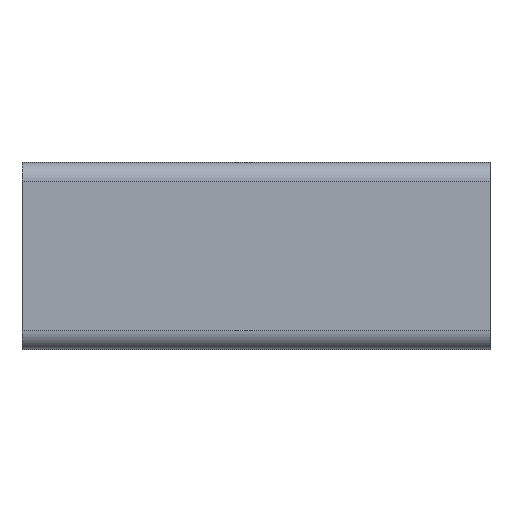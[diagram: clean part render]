
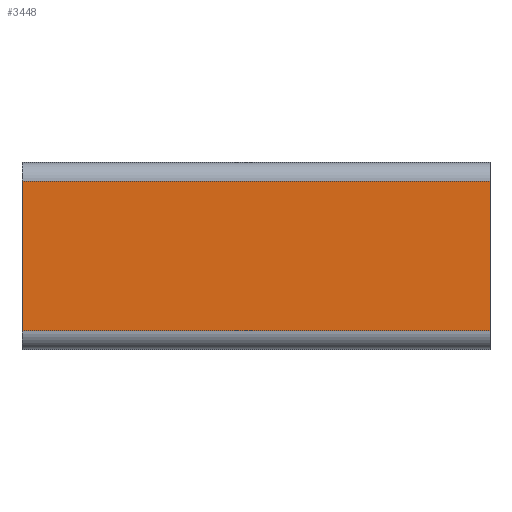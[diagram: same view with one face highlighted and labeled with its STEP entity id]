
A CAD part, left-side view. The second image highlights one B-rep face of the part: STEP entity #3448.
In plain terms, the highlighted planar face has unit normal (-1, 0, 0).
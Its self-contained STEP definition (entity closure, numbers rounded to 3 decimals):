
#30 = EDGE_CURVE ( 'NONE', #4335, #5231, #5240, .T. ) ;
#272 = EDGE_CURVE ( 'NONE', #2256, #4620, #5078, .T. ) ;
#498 = CARTESIAN_POINT ( 'NONE',  ( -40., 50., -16. ) ) ;
#581 = CARTESIAN_POINT ( 'NONE',  ( -40., 50., 16. ) ) ;
#975 = LINE ( 'NONE', #7409, #1725 ) ;
#977 = CARTESIAN_POINT ( 'NONE',  ( -40., 50., -16. ) ) ;
#1560 = VECTOR ( 'NONE', #3964, 1000. ) ;
#1659 = EDGE_CURVE ( 'NONE', #2256, #4335, #5463, .T. ) ;
#1701 = FACE_OUTER_BOUND ( 'NONE', #2678, .T. ) ;
#1725 = VECTOR ( 'NONE', #4500, 1000. ) ;
#1886 = ORIENTED_EDGE ( 'NONE', *, *, #272, .T. ) ;
#1983 = ORIENTED_EDGE ( 'NONE', *, *, #7606, .T. ) ;
#1988 = CARTESIAN_POINT ( 'NONE',  ( -40., -50., 16. ) ) ;
#2050 = CARTESIAN_POINT ( 'NONE',  ( -40., 50., -16. ) ) ;
#2256 = VERTEX_POINT ( 'NONE', #2050 ) ;
#2614 = CARTESIAN_POINT ( 'NONE',  ( -40., 50., 16. ) ) ;
#2678 = EDGE_LOOP ( 'NONE', ( #1983, #3156, #7266, #1886 ) ) ;
#3156 = ORIENTED_EDGE ( 'NONE', *, *, #30, .F. ) ;
#3448 = ADVANCED_FACE ( 'NONE', ( #1701 ), #7469, .F. ) ;
#3719 = CARTESIAN_POINT ( 'NONE',  ( -40., 50., -16. ) ) ;
#3964 = DIRECTION ( 'NONE',  ( 0., -1., 0. ) ) ;
#4335 = VERTEX_POINT ( 'NONE', #2614 ) ;
#4500 = DIRECTION ( 'NONE',  ( 0., 0., 1. ) ) ;
#4620 = VERTEX_POINT ( 'NONE', #6128 ) ;
#5078 = LINE ( 'NONE', #977, #6123 ) ;
#5231 = VERTEX_POINT ( 'NONE', #1988 ) ;
#5240 = LINE ( 'NONE', #581, #1560 ) ;
#5463 = LINE ( 'NONE', #3719, #6328 ) ;
#5497 = DIRECTION ( 'NONE',  ( 0., 0., 1. ) ) ;
#5716 = DIRECTION ( 'NONE',  ( 0., 0., -1. ) ) ;
#6123 = VECTOR ( 'NONE', #6757, 1000. ) ;
#6128 = CARTESIAN_POINT ( 'NONE',  ( -40., -50., -16. ) ) ;
#6248 = DIRECTION ( 'NONE',  ( 1., 0., 0. ) ) ;
#6328 = VECTOR ( 'NONE', #5497, 1000. ) ;
#6757 = DIRECTION ( 'NONE',  ( 0., -1., 0. ) ) ;
#7266 = ORIENTED_EDGE ( 'NONE', *, *, #1659, .F. ) ;
#7409 = CARTESIAN_POINT ( 'NONE',  ( -40., -50., -16. ) ) ;
#7469 = PLANE ( 'NONE',  #7580 ) ;
#7580 = AXIS2_PLACEMENT_3D ( 'NONE', #498, #6248, #5716 ) ;
#7606 = EDGE_CURVE ( 'NONE', #4620, #5231, #975, .T. ) ;
